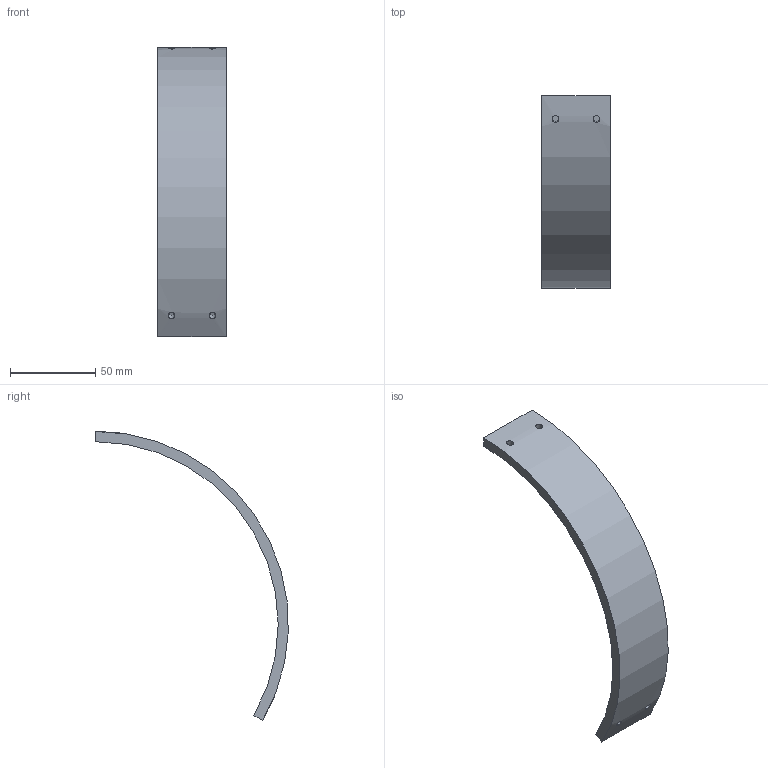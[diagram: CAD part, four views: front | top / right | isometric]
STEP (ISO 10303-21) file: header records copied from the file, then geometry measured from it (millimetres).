
FILE_DESCRIPTION(('Open CASCADE Model'),'2;1');
FILE_NAME('Open CASCADE Shape Model','2026-11-02T23:22:41',('Author'),( 'Open CASCADE'),'Open CASCADE STEP processor 7.9','Open CASCADE 7.9' ,'Unknown');
FILE_SCHEMA(('AUTOMOTIVE_DESIGN { 1 0 10303 214 1 1 1 1 }'));
Length unit declared in the file: millimetre
Products named in the file (1): Open CASCADE STEP translator 7.9 21
Bounding box: 40 x 112.91 x 169.5 mm (x, y, z)
Volume: 55045.8 mm3; surface area: 21926.4 mm2
Topology: 1 solids, 1 shells, 14 faces, 24 edges, 16 vertices
Faces by surface type: plane 8, cylinder 6
Full cylindrical faces by diameter (mm): 4 x4
Entity records: 1228 total; most frequent: CARTESIAN_POINT 703, DIRECTION 96, ORIENTED_EDGE 48, PCURVE 48, DEFINITIONAL_REPRESENTATION 48, LINE 44, VECTOR 44, EDGE_CURVE 24
